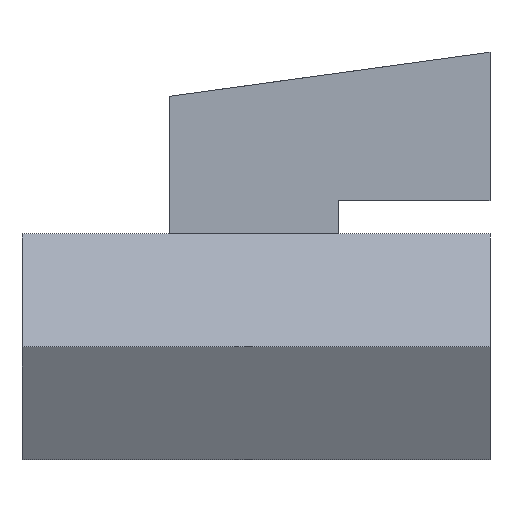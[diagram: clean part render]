
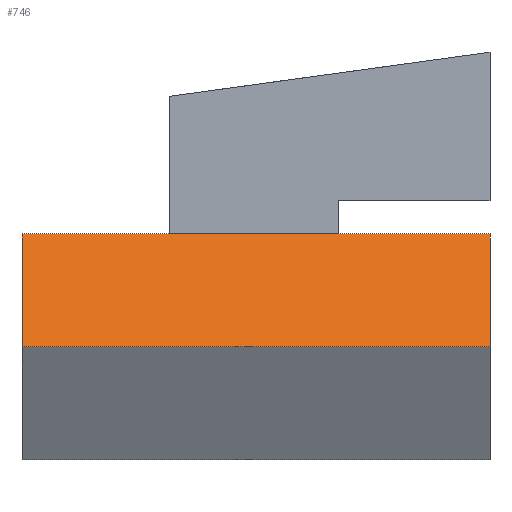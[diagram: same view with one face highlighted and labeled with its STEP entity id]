
A CAD part, front view. The second image highlights one B-rep face of the part: STEP entity #746.
In plain terms, the highlighted planar face has unit normal (0, -0.866, 0.5).
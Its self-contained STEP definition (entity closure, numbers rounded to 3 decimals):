
#24 = VERTEX_POINT('',#25);
#25 = CARTESIAN_POINT('',(-1.7,-0.237,0.41));
#32 = PLANE('',#33);
#33 = AXIS2_PLACEMENT_3D('',#34,#35,#36);
#34 = CARTESIAN_POINT('',(0.,0.,0.41));
#35 = DIRECTION('',(0.,0.,1.));
#36 = DIRECTION('',(0.,1.,0.));
#44 = PLANE('',#45);
#45 = AXIS2_PLACEMENT_3D('',#46,#47,#48);
#46 = CARTESIAN_POINT('',(-1.7,0.,0.));
#47 = DIRECTION('',(1.,0.,0.));
#48 = DIRECTION('',(0.,0.,-1.));
#56 = EDGE_CURVE('',#57,#24,#59,.T.);
#57 = VERTEX_POINT('',#58);
#58 = CARTESIAN_POINT('',(0.,-0.237,0.41));
#59 = SURFACE_CURVE('',#60,(#64,#71),.PCURVE_S1.);
#60 = LINE('',#61,#62);
#61 = CARTESIAN_POINT('',(0.,-0.237,0.41));
#62 = VECTOR('',#63,1.);
#63 = DIRECTION('',(-1.,0.,0.));
#64 = PCURVE('',#32,#65);
#65 = DEFINITIONAL_REPRESENTATION('',(#66),#70);
#66 = LINE('',#67,#68);
#67 = CARTESIAN_POINT('',(-0.237,0.));
#68 = VECTOR('',#69,1.);
#69 = DIRECTION('',(0.,1.));
#70 = ( GEOMETRIC_REPRESENTATION_CONTEXT(2) 
PARAMETRIC_REPRESENTATION_CONTEXT() REPRESENTATION_CONTEXT('2D SPACE',''
  ) );
#71 = PCURVE('',#72,#77);
#72 = PLANE('',#73);
#73 = AXIS2_PLACEMENT_3D('',#74,#75,#76);
#74 = CARTESIAN_POINT('',(0.,-0.355,0.205));
#75 = DIRECTION('',(0.,-0.866,0.5));
#76 = DIRECTION('',(0.,0.5,0.866));
#77 = DEFINITIONAL_REPRESENTATION('',(#78),#82);
#78 = LINE('',#79,#80);
#79 = CARTESIAN_POINT('',(0.237,0.));
#80 = VECTOR('',#81,1.);
#81 = DIRECTION('',(0.,1.));
#82 = ( GEOMETRIC_REPRESENTATION_CONTEXT(2) 
PARAMETRIC_REPRESENTATION_CONTEXT() REPRESENTATION_CONTEXT('2D SPACE',''
  ) );
#100 = PLANE('',#101);
#101 = AXIS2_PLACEMENT_3D('',#102,#103,#104);
#102 = CARTESIAN_POINT('',(0.,0.,0.));
#103 = DIRECTION('',(1.,0.,0.));
#104 = DIRECTION('',(0.,0.,-1.));
#617 = PLANE('',#618);
#618 = AXIS2_PLACEMENT_3D('',#619,#620,#621);
#619 = CARTESIAN_POINT('',(0.,-0.355,-0.205));
#620 = DIRECTION('',(0.,-0.866,-0.5));
#621 = DIRECTION('',(0.,-0.5,0.866));
#746 = ADVANCED_FACE('',(#747),#72,.T.);
#747 = FACE_BOUND('',#748,.T.);
#748 = EDGE_LOOP('',(#749,#772,#795,#816));
#749 = ORIENTED_EDGE('',*,*,#750,.T.);
#750 = EDGE_CURVE('',#24,#751,#753,.T.);
#751 = VERTEX_POINT('',#752);
#752 = CARTESIAN_POINT('',(-1.7,-0.473,0.));
#753 = SURFACE_CURVE('',#754,(#758,#765),.PCURVE_S1.);
#754 = LINE('',#755,#756);
#755 = CARTESIAN_POINT('',(-1.7,-0.473,0.));
#756 = VECTOR('',#757,1.);
#757 = DIRECTION('',(0.,-0.5,-0.866));
#758 = PCURVE('',#72,#759);
#759 = DEFINITIONAL_REPRESENTATION('',(#760),#764);
#760 = LINE('',#761,#762);
#761 = CARTESIAN_POINT('',(-0.237,1.7));
#762 = VECTOR('',#763,1.);
#763 = DIRECTION('',(-1.,-0.));
#764 = ( GEOMETRIC_REPRESENTATION_CONTEXT(2) 
PARAMETRIC_REPRESENTATION_CONTEXT() REPRESENTATION_CONTEXT('2D SPACE',''
  ) );
#765 = PCURVE('',#44,#766);
#766 = DEFINITIONAL_REPRESENTATION('',(#767),#771);
#767 = LINE('',#768,#769);
#768 = CARTESIAN_POINT('',(0.,-0.473));
#769 = VECTOR('',#770,1.);
#770 = DIRECTION('',(0.866,-0.5));
#771 = ( GEOMETRIC_REPRESENTATION_CONTEXT(2) 
PARAMETRIC_REPRESENTATION_CONTEXT() REPRESENTATION_CONTEXT('2D SPACE',''
  ) );
#772 = ORIENTED_EDGE('',*,*,#773,.F.);
#773 = EDGE_CURVE('',#774,#751,#776,.T.);
#774 = VERTEX_POINT('',#775);
#775 = CARTESIAN_POINT('',(0.,-0.473,0.));
#776 = SURFACE_CURVE('',#777,(#781,#788),.PCURVE_S1.);
#777 = LINE('',#778,#779);
#778 = CARTESIAN_POINT('',(0.,-0.473,0.));
#779 = VECTOR('',#780,1.);
#780 = DIRECTION('',(-1.,0.,0.));
#781 = PCURVE('',#72,#782);
#782 = DEFINITIONAL_REPRESENTATION('',(#783),#787);
#783 = LINE('',#784,#785);
#784 = CARTESIAN_POINT('',(-0.237,-0.));
#785 = VECTOR('',#786,1.);
#786 = DIRECTION('',(0.,1.));
#787 = ( GEOMETRIC_REPRESENTATION_CONTEXT(2) 
PARAMETRIC_REPRESENTATION_CONTEXT() REPRESENTATION_CONTEXT('2D SPACE',''
  ) );
#788 = PCURVE('',#617,#789);
#789 = DEFINITIONAL_REPRESENTATION('',(#790),#794);
#790 = LINE('',#791,#792);
#791 = CARTESIAN_POINT('',(0.237,0.));
#792 = VECTOR('',#793,1.);
#793 = DIRECTION('',(0.,1.));
#794 = ( GEOMETRIC_REPRESENTATION_CONTEXT(2) 
PARAMETRIC_REPRESENTATION_CONTEXT() REPRESENTATION_CONTEXT('2D SPACE',''
  ) );
#795 = ORIENTED_EDGE('',*,*,#796,.T.);
#796 = EDGE_CURVE('',#774,#57,#797,.T.);
#797 = SURFACE_CURVE('',#798,(#802,#809),.PCURVE_S1.);
#798 = LINE('',#799,#800);
#799 = CARTESIAN_POINT('',(0.,-0.473,0.));
#800 = VECTOR('',#801,1.);
#801 = DIRECTION('',(0.,0.5,0.866));
#802 = PCURVE('',#72,#803);
#803 = DEFINITIONAL_REPRESENTATION('',(#804),#808);
#804 = LINE('',#805,#806);
#805 = CARTESIAN_POINT('',(-0.237,-0.));
#806 = VECTOR('',#807,1.);
#807 = DIRECTION('',(1.,0.));
#808 = ( GEOMETRIC_REPRESENTATION_CONTEXT(2) 
PARAMETRIC_REPRESENTATION_CONTEXT() REPRESENTATION_CONTEXT('2D SPACE',''
  ) );
#809 = PCURVE('',#100,#810);
#810 = DEFINITIONAL_REPRESENTATION('',(#811),#815);
#811 = LINE('',#812,#813);
#812 = CARTESIAN_POINT('',(0.,-0.473));
#813 = VECTOR('',#814,1.);
#814 = DIRECTION('',(-0.866,0.5));
#815 = ( GEOMETRIC_REPRESENTATION_CONTEXT(2) 
PARAMETRIC_REPRESENTATION_CONTEXT() REPRESENTATION_CONTEXT('2D SPACE',''
  ) );
#816 = ORIENTED_EDGE('',*,*,#56,.T.);
